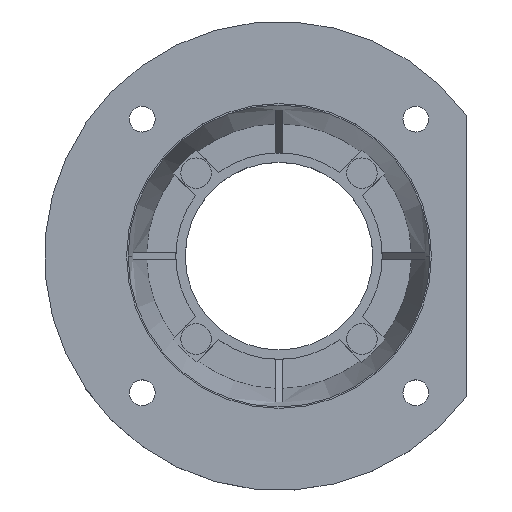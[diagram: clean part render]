
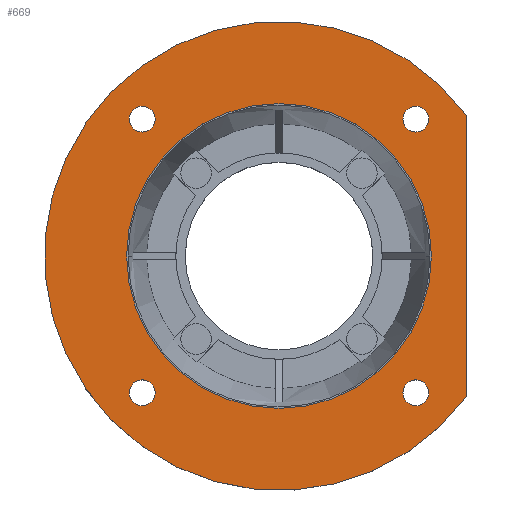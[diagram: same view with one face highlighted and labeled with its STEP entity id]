
A CAD part, top view. The second image highlights one B-rep face of the part: STEP entity #669.
In plain terms, the highlighted planar face has unit normal (0, 0, 1) as drawn and (1, 0, 0) by its records, which use the part's own axes.
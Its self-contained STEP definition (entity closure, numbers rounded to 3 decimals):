
#669=ADVANCED_FACE('',(#766,#752,#753,#754,#755,#756),#2055,.T.);
#752=FACE_BOUND('',#852,.T.);
#753=FACE_BOUND('',#853,.T.);
#754=FACE_BOUND('',#854,.T.);
#755=FACE_BOUND('',#855,.T.);
#756=FACE_BOUND('',#856,.T.);
#766=FACE_OUTER_BOUND('',#851,.T.);
#851=EDGE_LOOP('',(#972,#973));
#852=EDGE_LOOP('',(#974,#975));
#853=EDGE_LOOP('',(#976,#977));
#854=EDGE_LOOP('',(#978,#979));
#855=EDGE_LOOP('',(#980,#981));
#856=EDGE_LOOP('',(#982,#983));
#972=ORIENTED_EDGE('',*,*,#1382,.F.);
#973=ORIENTED_EDGE('',*,*,#1379,.F.);
#974=ORIENTED_EDGE('',*,*,#1568,.F.);
#975=ORIENTED_EDGE('',*,*,#1531,.F.);
#976=ORIENTED_EDGE('',*,*,#1566,.F.);
#977=ORIENTED_EDGE('',*,*,#1527,.F.);
#978=ORIENTED_EDGE('',*,*,#1564,.F.);
#979=ORIENTED_EDGE('',*,*,#1523,.F.);
#980=ORIENTED_EDGE('',*,*,#1562,.F.);
#981=ORIENTED_EDGE('',*,*,#1519,.F.);
#982=ORIENTED_EDGE('',*,*,#1556,.F.);
#983=ORIENTED_EDGE('',*,*,#1447,.F.);
#1379=EDGE_CURVE('',#1901,#1902,#1587,.T.);
#1382=EDGE_CURVE('',#1902,#1901,#1769,.T.);
#1447=EDGE_CURVE('',#1903,#2004,#1616,.T.);
#1519=EDGE_CURVE('',#1907,#2007,#1632,.T.);
#1523=EDGE_CURVE('',#1906,#2008,#1635,.T.);
#1527=EDGE_CURVE('',#1905,#2009,#1638,.T.);
#1531=EDGE_CURVE('',#1904,#2010,#1641,.T.);
#1556=EDGE_CURVE('',#2004,#1903,#1656,.T.);
#1562=EDGE_CURVE('',#2007,#1907,#1660,.T.);
#1564=EDGE_CURVE('',#2008,#1906,#1661,.T.);
#1566=EDGE_CURVE('',#2009,#1905,#1662,.T.);
#1568=EDGE_CURVE('',#2010,#1904,#1663,.T.);
#1587=TRIMMED_CURVE($,#1672,(#3026),(#3027),.T.,.CARTESIAN.);
#1616=TRIMMED_CURVE($,#1701,(#3223),(#3224),.T.,.CARTESIAN.);
#1632=TRIMMED_CURVE($,#1717,(#3426),(#3427),.T.,.CARTESIAN.);
#1635=TRIMMED_CURVE($,#1720,(#3437),(#3438),.T.,.CARTESIAN.);
#1638=TRIMMED_CURVE($,#1723,(#3448),(#3449),.T.,.CARTESIAN.);
#1641=TRIMMED_CURVE($,#1726,(#3459),(#3460),.T.,.CARTESIAN.);
#1656=TRIMMED_CURVE($,#1741,(#3525),(#3526),.T.,.CARTESIAN.);
#1660=TRIMMED_CURVE($,#1745,(#3541),(#3542),.T.,.CARTESIAN.);
#1661=TRIMMED_CURVE($,#1746,(#3546),(#3547),.T.,.CARTESIAN.);
#1662=TRIMMED_CURVE($,#1747,(#3551),(#3552),.T.,.CARTESIAN.);
#1663=TRIMMED_CURVE($,#1748,(#3556),(#3557),.T.,.CARTESIAN.);
#1672=CIRCLE('',#2350,100.);
#1701=CIRCLE('',#2379,65.);
#1717=CIRCLE('',#2395,5.5);
#1720=CIRCLE('',#2398,5.5);
#1723=CIRCLE('',#2401,5.5);
#1726=CIRCLE('',#2404,5.5);
#1741=CIRCLE('',#2419,65.);
#1745=CIRCLE('',#2423,5.5);
#1746=CIRCLE('',#2424,5.5);
#1747=CIRCLE('',#2425,5.5);
#1748=CIRCLE('',#2426,5.5);
#1769=B_SPLINE_CURVE_WITH_KNOTS('',1,(#3033,#3034),.UNSPECIFIED.,.F.,.F.,
(2,2),(-120.,0.),.UNSPECIFIED.);
#1901=VERTEX_POINT('',#2885);
#1902=VERTEX_POINT('',#2886);
#1903=VERTEX_POINT('',#2887);
#1904=VERTEX_POINT('',#2888);
#1905=VERTEX_POINT('',#2889);
#1906=VERTEX_POINT('',#2890);
#1907=VERTEX_POINT('',#2891);
#2004=VERTEX_POINT('',#2988);
#2007=VERTEX_POINT('',#2991);
#2008=VERTEX_POINT('',#2992);
#2009=VERTEX_POINT('',#2993);
#2010=VERTEX_POINT('',#2994);
#2055=PLANE('',#2279);
#2279=AXIS2_PLACEMENT_3D('',#2692,#2443,$);
#2350=AXIS2_PLACEMENT_3D($,#3025,#2514,#2515);
#2379=AXIS2_PLACEMENT_3D($,#3222,#2572,#2573);
#2395=AXIS2_PLACEMENT_3D($,#3425,#2604,#2605);
#2398=AXIS2_PLACEMENT_3D($,#3436,#2610,#2611);
#2401=AXIS2_PLACEMENT_3D($,#3447,#2616,#2617);
#2404=AXIS2_PLACEMENT_3D($,#3458,#2622,#2623);
#2419=AXIS2_PLACEMENT_3D($,#3524,#2652,#2653);
#2423=AXIS2_PLACEMENT_3D($,#3540,#2660,#2661);
#2424=AXIS2_PLACEMENT_3D($,#3545,#2662,#2663);
#2425=AXIS2_PLACEMENT_3D($,#3550,#2664,#2665);
#2426=AXIS2_PLACEMENT_3D($,#3555,#2666,#2667);
#2443=DIRECTION('',(1.,0.,0.));
#2514=DIRECTION('',(-1.,0.,0.));
#2515=DIRECTION('',(0.,0.6,0.8));
#2572=DIRECTION('',(1.,0.,0.));
#2573=DIRECTION('',(0.,0.,-1.));
#2604=DIRECTION('',(1.,0.,0.));
#2605=DIRECTION('',(0.,0.,1.));
#2610=DIRECTION('',(1.,0.,0.));
#2611=DIRECTION('',(0.,0.,1.));
#2616=DIRECTION('',(1.,0.,0.));
#2617=DIRECTION('',(0.,0.,1.));
#2622=DIRECTION('',(1.,0.,0.));
#2623=DIRECTION('',(0.,0.,1.));
#2652=DIRECTION('',(1.,0.,0.));
#2653=DIRECTION('',(0.,0.,1.));
#2660=DIRECTION('',(1.,0.,0.));
#2661=DIRECTION('',(0.,0.,-1.));
#2662=DIRECTION('',(1.,0.,0.));
#2663=DIRECTION('',(0.,0.,-1.));
#2664=DIRECTION('',(1.,0.,0.));
#2665=DIRECTION('',(0.,0.,-1.));
#2666=DIRECTION('',(1.,0.,0.));
#2667=DIRECTION('',(0.,0.,-1.));
#2692=CARTESIAN_POINT('',(54.,-141.253,-118.06));
#2885=CARTESIAN_POINT('',(54.,60.,80.));
#2886=CARTESIAN_POINT('',(54.,-60.,80.));
#2887=CARTESIAN_POINT('',(54.,0.,-65.));
#2888=CARTESIAN_POINT('',(54.,58.336,63.836));
#2889=CARTESIAN_POINT('',(54.,-58.336,63.836));
#2890=CARTESIAN_POINT('',(54.,-58.336,-52.836));
#2891=CARTESIAN_POINT('',(54.,58.336,-52.836));
#2988=CARTESIAN_POINT('',(54.,0.,65.));
#2991=CARTESIAN_POINT('',(54.,58.336,-63.836));
#2992=CARTESIAN_POINT('',(54.,-58.336,-63.836));
#2993=CARTESIAN_POINT('',(54.,-58.336,52.836));
#2994=CARTESIAN_POINT('',(54.,58.336,52.836));
#3025=CARTESIAN_POINT('',(54.,0.,0.));
#3026=CARTESIAN_POINT('',(54.,60.,80.));
#3027=CARTESIAN_POINT('',(54.,-60.,80.));
#3033=CARTESIAN_POINT('',(54.,-60.,80.));
#3034=CARTESIAN_POINT('',(54.,60.,80.));
#3222=CARTESIAN_POINT('',(54.,0.,0.));
#3223=CARTESIAN_POINT('',(54.,0.,-65.));
#3224=CARTESIAN_POINT('',(54.,0.,65.));
#3425=CARTESIAN_POINT('',(54.,58.336,-58.336));
#3426=CARTESIAN_POINT('',(54.,58.336,-52.836));
#3427=CARTESIAN_POINT('',(54.,58.336,-63.836));
#3436=CARTESIAN_POINT('',(54.,-58.336,-58.336));
#3437=CARTESIAN_POINT('',(54.,-58.336,-52.836));
#3438=CARTESIAN_POINT('',(54.,-58.336,-63.836));
#3447=CARTESIAN_POINT('',(54.,-58.336,58.336));
#3448=CARTESIAN_POINT('',(54.,-58.336,63.836));
#3449=CARTESIAN_POINT('',(54.,-58.336,52.836));
#3458=CARTESIAN_POINT('',(54.,58.336,58.336));
#3459=CARTESIAN_POINT('',(54.,58.336,63.836));
#3460=CARTESIAN_POINT('',(54.,58.336,52.836));
#3524=CARTESIAN_POINT('',(54.,0.,0.));
#3525=CARTESIAN_POINT('',(54.,0.,65.));
#3526=CARTESIAN_POINT('',(54.,0.,-65.));
#3540=CARTESIAN_POINT('',(54.,58.336,-58.336));
#3541=CARTESIAN_POINT('',(54.,58.336,-63.836));
#3542=CARTESIAN_POINT('',(54.,58.336,-52.836));
#3545=CARTESIAN_POINT('',(54.,-58.336,-58.336));
#3546=CARTESIAN_POINT('',(54.,-58.336,-63.836));
#3547=CARTESIAN_POINT('',(54.,-58.336,-52.836));
#3550=CARTESIAN_POINT('',(54.,-58.336,58.336));
#3551=CARTESIAN_POINT('',(54.,-58.336,52.836));
#3552=CARTESIAN_POINT('',(54.,-58.336,63.836));
#3555=CARTESIAN_POINT('',(54.,58.336,58.336));
#3556=CARTESIAN_POINT('',(54.,58.336,52.836));
#3557=CARTESIAN_POINT('',(54.,58.336,63.836));
